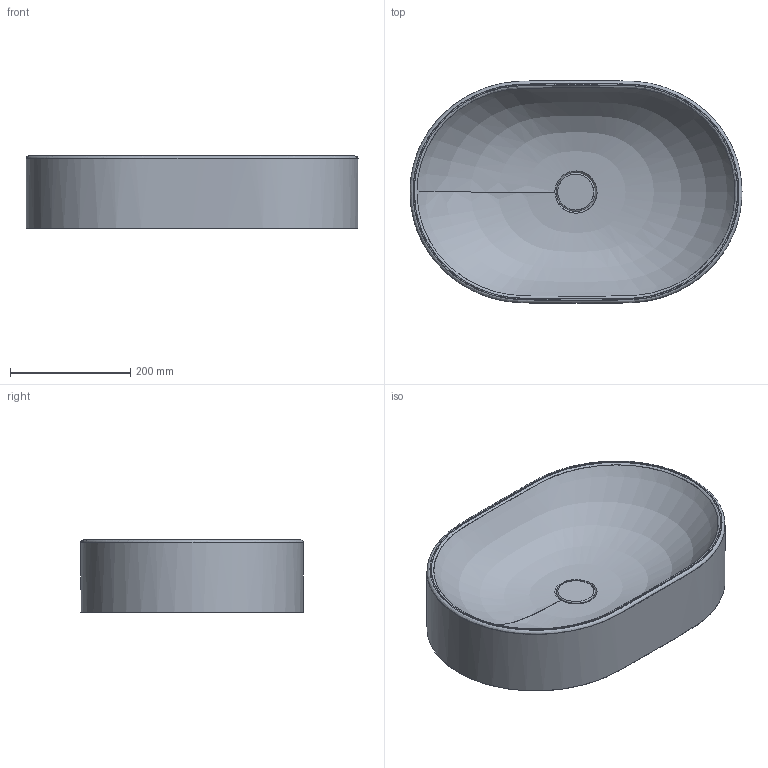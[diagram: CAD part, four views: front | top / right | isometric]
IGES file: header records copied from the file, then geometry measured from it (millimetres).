
Global section: file name: C:\Users\FULVIO\Desktop\Nic\2019\Settembre\Lavabi Pin\Pin lavabo 55x38\Modello 3D\55 x 37.igs; native system: Rhinoceros ( Mar  6 2018 ); preprocessor: Trout Lake IGES 012 Mar  6 2018; date: 190917.093102; units: millimetre
Bounding box: 551.4 x 369.92 x 120 mm (x, y, z)
Surface area: 575265.6 mm2 (no closed solid volume)
Topology: 0 solids, 0 shells, 12 faces, 616 edges, 606 vertices
Faces by surface type: bspline 12
